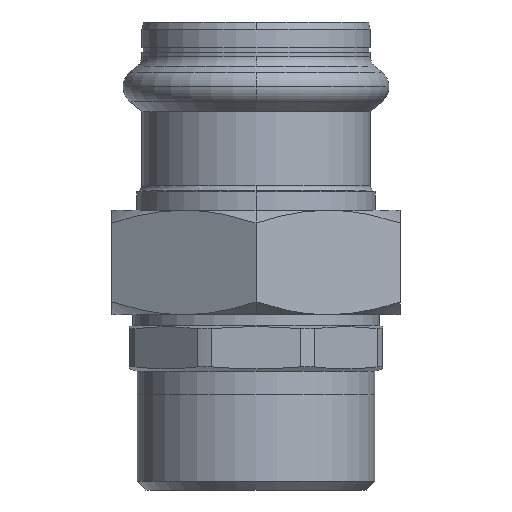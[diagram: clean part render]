
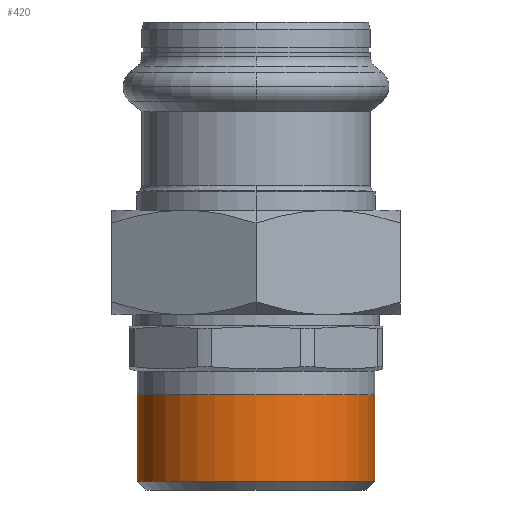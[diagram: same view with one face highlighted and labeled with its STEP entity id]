
A CAD part, left-side view. The second image highlights one B-rep face of the part: STEP entity #420.
In plain terms, the highlighted cylindrical face has radius 23.901 mm (diameter 47.803 mm), a partial arc.
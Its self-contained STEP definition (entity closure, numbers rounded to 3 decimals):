
#10=CARTESIAN_POINT('',(132.236,145.94,0.));
#20=DIRECTION('',(1.,0.,0.));
#30=DIRECTION('',(0.,-1.,0.));
#40=AXIS2_PLACEMENT_3D('',#10,#20,#30);
#50=CYLINDRICAL_SURFACE('',#40,23.902);
#60=CARTESIAN_POINT('',(132.236,122.038,0.));
#70=DIRECTION('',(1.,0.,0.));
#80=VECTOR('',#70,1.);
#90=LINE('',#60,#80);
#100=CARTESIAN_POINT('',(122.083,122.038,0.));
#110=VERTEX_POINT('',#100);
#120=CARTESIAN_POINT('',(139.383,122.038,0.));
#130=VERTEX_POINT('',#120);
#140=EDGE_CURVE('',#110,#130,#90,.T.);
#150=ORIENTED_EDGE('',*,*,#140,.T.);
#160=CARTESIAN_POINT('',(122.083,145.94,0.));
#170=DIRECTION('',(-1.,0.,0.));
#180=DIRECTION('',(0.,1.,0.));
#190=AXIS2_PLACEMENT_3D('',#160,#170,#180);
#200=CIRCLE('',#190,23.902);
#210=CARTESIAN_POINT('',(122.083,169.841,
0.));
#220=VERTEX_POINT('',#210);
#230=EDGE_CURVE('',#110,#220,#200,.T.);
#240=ORIENTED_EDGE('',*,*,#230,.F.);
#250=CARTESIAN_POINT('',(132.236,169.841,
0.));
#260=DIRECTION('',(1.,0.,0.));
#270=VECTOR('',#260,1.);
#280=LINE('',#250,#270);
#290=CARTESIAN_POINT('',(139.383,169.841,
0.));
#300=VERTEX_POINT('',#290);
#310=EDGE_CURVE('',#220,#300,#280,.T.);
#320=ORIENTED_EDGE('',*,*,#310,.F.);
#330=CARTESIAN_POINT('',(139.383,145.94,0.));
#340=DIRECTION('',(1.,0.,0.));
#350=DIRECTION('',(0.,-1.,0.));
#360=AXIS2_PLACEMENT_3D('',#330,#340,#350);
#370=CIRCLE('',#360,23.902);
#380=EDGE_CURVE('',#300,#130,#370,.T.);
#390=ORIENTED_EDGE('',*,*,#380,.F.);
#400=EDGE_LOOP('',(#390,#320,#240,#150));
#410=FACE_OUTER_BOUND('',#400,.T.);
#420=ADVANCED_FACE('1.882008-11_949102',(#410),#50,.T.);
